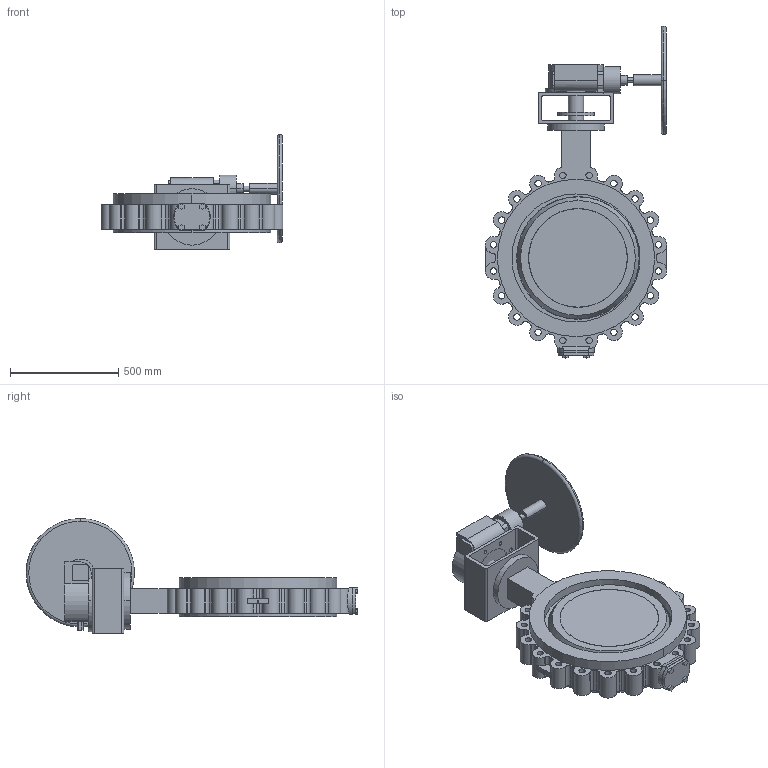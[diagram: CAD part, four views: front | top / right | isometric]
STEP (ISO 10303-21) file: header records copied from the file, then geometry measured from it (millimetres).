
FILE_DESCRIPTION( ( '' ), '1' );
FILE_NAME( 'F:/DE-SHS/TB/OR/04-Sonstiges/daten/Excel/mneugeba/018_ZETRIX-PN16_Getriebe-Rotork/c000006439.stp', '2016-09-19T06:29:41', ( '' ), ( '' ), ' ', ' ', ' ' );
FILE_SCHEMA( ( 'CONFIG_CONTROL_DESIGN' ) );
Length unit declared in the file: millimetre
Products named in the file (2): 1; 2
Bounding box: 837.48 x 1530 x 530 mm (x, y, z)
Volume: 82573430 mm3; surface area: 3833587.2 mm2
Topology: 2 solids, 2 shells, 426 faces, 1169 edges, 777 vertices
Faces by surface type: cylinder 259, plane 155, cone 4, sphere 4, torus 4
Entity records: 14868 total; most frequent: CARTESIAN_POINT 3313, DIRECTION 2560, ORIENTED_EDGE 2338, EDGE_CURVE 1169, AXIS2_PLACEMENT_3D 998, VERTEX_POINT 777, CIRCLE 566, LINE 564
